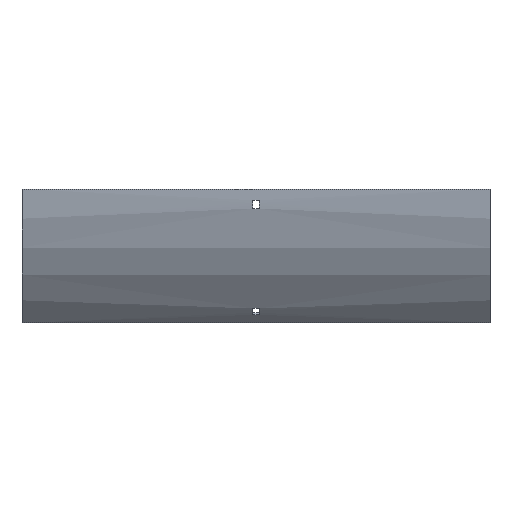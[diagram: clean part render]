
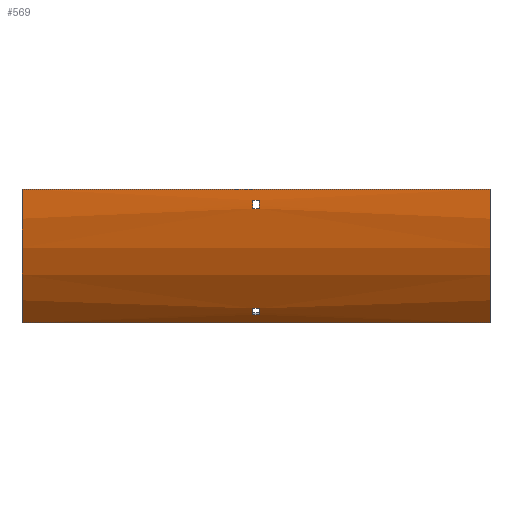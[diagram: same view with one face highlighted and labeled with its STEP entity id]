
A CAD part, front view. The second image highlights one B-rep face of the part: STEP entity #569.
In plain terms, the highlighted cylindrical face has radius 204 mm (diameter 408 mm), a partial arc.
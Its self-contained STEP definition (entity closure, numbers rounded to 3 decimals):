
#29 = AXIS2_PLACEMENT_3D ( 'NONE', #1454, #316, #278 ) ;
#51 = EDGE_CURVE ( 'NONE', #1194, #70, #1008, .T. ) ;
#70 = VERTEX_POINT ( 'NONE', #1602 ) ;
#91 = AXIS2_PLACEMENT_3D ( 'NONE', #1419, #129, #616 ) ;
#106 = ORIENTED_EDGE ( 'NONE', *, *, #967, .T. ) ;
#109 = ORIENTED_EDGE ( 'NONE', *, *, #1183, .T. ) ;
#112 = CIRCLE ( 'NONE', #91, 204. ) ;
#125 = LINE ( 'NONE', #792, #680 ) ;
#129 = DIRECTION ( 'NONE',  ( -1., 0., 0. ) ) ;
#141 = DIRECTION ( 'NONE',  ( 0., 0., 1. ) ) ;
#151 = CARTESIAN_POINT ( 'NONE',  ( 252., -44.25, -144.25 ) ) ;
#163 = VERTEX_POINT ( 'NONE', #236 ) ;
#196 = VERTEX_POINT ( 'NONE', #1556 ) ;
#208 = CARTESIAN_POINT ( 'NONE',  ( 3.25, 100., 0. ) ) ;
#209 = VERTEX_POINT ( 'NONE', #1414 ) ;
#221 = DIRECTION ( 'NONE',  ( -1., 0., 0. ) ) ;
#236 = CARTESIAN_POINT ( 'NONE',  ( 252., -104., 0. ) ) ;
#248 = ORIENTED_EDGE ( 'NONE', *, *, #51, .F. ) ;
#258 = CIRCLE ( 'NONE', #29, 204. ) ;
#272 = FACE_BOUND ( 'NONE', #747, .T. ) ;
#278 = DIRECTION ( 'NONE',  ( 0., 0., -1. ) ) ;
#281 = CARTESIAN_POINT ( 'NONE',  ( 252., -44.25, -144.25 ) ) ;
#284 = ORIENTED_EDGE ( 'NONE', *, *, #1278, .F. ) ;
#288 = VECTOR ( 'NONE', #563, 1000. ) ;
#316 = DIRECTION ( 'NONE',  ( 1., 0., 0. ) ) ;
#328 = CARTESIAN_POINT ( 'NONE',  ( 3.25, 100., 0. ) ) ;
#350 = EDGE_CURVE ( 'NONE', #1267, #996, #999, .T. ) ;
#386 = EDGE_CURVE ( 'NONE', #1373, #632, #1347, .T. ) ;
#412 = LINE ( 'NONE', #668, #1575 ) ;
#422 = FACE_BOUND ( 'NONE', #1386, .T. ) ;
#438 = CARTESIAN_POINT ( 'NONE',  ( 252., -103.647, -12. ) ) ;
#485 = EDGE_CURVE ( 'NONE', #1232, #769, #1192, .T. ) ;
#520 = AXIS2_PLACEMENT_3D ( 'NONE', #208, #864, #596 ) ;
#563 = DIRECTION ( 'NONE',  ( 1., 0., 0. ) ) ;
#569 = ADVANCED_FACE ( 'NONE', ( #919, #272, #422 ), #791, .T. ) ;
#570 = ORIENTED_EDGE ( 'NONE', *, *, #1529, .T. ) ;
#582 = CARTESIAN_POINT ( 'NONE',  ( -3.25, -58.333, -128.634 ) ) ;
#585 = CARTESIAN_POINT ( 'NONE',  ( -3.25, -102.916, -21. ) ) ;
#596 = DIRECTION ( 'NONE',  ( 0., 0., -1. ) ) ;
#616 = DIRECTION ( 'NONE',  ( 0., 0., 1. ) ) ;
#632 = VERTEX_POINT ( 'NONE', #585 ) ;
#668 = CARTESIAN_POINT ( 'NONE',  ( 252., -104., 0. ) ) ;
#680 = VECTOR ( 'NONE', #1690, 1000. ) ;
#685 = DIRECTION ( 'NONE',  ( -1., 0., 0. ) ) ;
#696 = EDGE_LOOP ( 'NONE', ( #106, #1654, #805, #109 ) ) ;
#710 = DIRECTION ( 'NONE',  ( 0., 0., -1. ) ) ;
#732 = ORIENTED_EDGE ( 'NONE', *, *, #1384, .T. ) ;
#747 = EDGE_LOOP ( 'NONE', ( #1603, #732, #570, #1459 ) ) ;
#769 = VERTEX_POINT ( 'NONE', #1526 ) ;
#791 = CYLINDRICAL_SURFACE ( 'NONE', #1398, 204. ) ;
#792 = CARTESIAN_POINT ( 'NONE',  ( 252., -52.485, -135.515 ) ) ;
#796 = AXIS2_PLACEMENT_3D ( 'NONE', #328, #1352, #1312 ) ;
#805 = ORIENTED_EDGE ( 'NONE', *, *, #1579, .F. ) ;
#828 = CARTESIAN_POINT ( 'NONE',  ( -252., 100., 0. ) ) ;
#845 = VERTEX_POINT ( 'NONE', #1475 ) ;
#864 = DIRECTION ( 'NONE',  ( 1., 0., 0. ) ) ;
#883 = VECTOR ( 'NONE', #685, 1000. ) ;
#919 = FACE_OUTER_BOUND ( 'NONE', #696, .T. ) ;
#920 = CARTESIAN_POINT ( 'NONE',  ( 3.25, -52.485, -135.515 ) ) ;
#932 = DIRECTION ( 'NONE',  ( -1., 0., 0. ) ) ;
#941 = VECTOR ( 'NONE', #1491, 1000. ) ;
#967 = EDGE_CURVE ( 'NONE', #196, #769, #1255, .T. ) ;
#974 = CARTESIAN_POINT ( 'NONE',  ( 252., -102.916, -21. ) ) ;
#996 = VERTEX_POINT ( 'NONE', #1292 ) ;
#999 = CIRCLE ( 'NONE', #1220, 204. ) ;
#1007 = CARTESIAN_POINT ( 'NONE',  ( 3.25, -102.916, -21. ) ) ;
#1008 = CIRCLE ( 'NONE', #796, 204. ) ;
#1031 = EDGE_CURVE ( 'NONE', #996, #1194, #125, .T. ) ;
#1038 = VECTOR ( 'NONE', #221, 1000. ) ;
#1095 = CARTESIAN_POINT ( 'NONE',  ( 252., -58.333, -128.634 ) ) ;
#1099 = DIRECTION ( 'NONE',  ( 1., 0., 0. ) ) ;
#1128 = ORIENTED_EDGE ( 'NONE', *, *, #350, .F. ) ;
#1173 = LINE ( 'NONE', #438, #288 ) ;
#1183 = EDGE_CURVE ( 'NONE', #163, #196, #412, .T. ) ;
#1192 = LINE ( 'NONE', #281, #883 ) ;
#1194 = VERTEX_POINT ( 'NONE', #920 ) ;
#1220 = AXIS2_PLACEMENT_3D ( 'NONE', #1600, #1230, #710 ) ;
#1230 = DIRECTION ( 'NONE',  ( 1., 0., 0. ) ) ;
#1232 = VERTEX_POINT ( 'NONE', #151 ) ;
#1255 = CIRCLE ( 'NONE', #1495, 204. ) ;
#1256 = CIRCLE ( 'NONE', #520, 204. ) ;
#1267 = VERTEX_POINT ( 'NONE', #582 ) ;
#1278 = EDGE_CURVE ( 'NONE', #70, #1267, #1500, .T. ) ;
#1292 = CARTESIAN_POINT ( 'NONE',  ( -3.25, -52.485, -135.515 ) ) ;
#1305 = CARTESIAN_POINT ( 'NONE',  ( 252., 100., 0. ) ) ;
#1312 = DIRECTION ( 'NONE',  ( 0., 0., 1. ) ) ;
#1347 = LINE ( 'NONE', #974, #941 ) ;
#1349 = EDGE_CURVE ( 'NONE', #845, #1373, #1256, .T. ) ;
#1352 = DIRECTION ( 'NONE',  ( -1., 0., 0. ) ) ;
#1373 = VERTEX_POINT ( 'NONE', #1007 ) ;
#1384 = EDGE_CURVE ( 'NONE', #632, #209, #112, .T. ) ;
#1386 = EDGE_LOOP ( 'NONE', ( #1128, #284, #248, #1558 ) ) ;
#1398 = AXIS2_PLACEMENT_3D ( 'NONE', #1305, #1447, #141 ) ;
#1414 = CARTESIAN_POINT ( 'NONE',  ( -3.25, -103.647, -12. ) ) ;
#1419 = CARTESIAN_POINT ( 'NONE',  ( -3.25, 100., 0. ) ) ;
#1447 = DIRECTION ( 'NONE',  ( -1., 0., 0. ) ) ;
#1454 = CARTESIAN_POINT ( 'NONE',  ( 252., 100., 0. ) ) ;
#1459 = ORIENTED_EDGE ( 'NONE', *, *, #1349, .T. ) ;
#1466 = DIRECTION ( 'NONE',  ( 0., 0., -1. ) ) ;
#1475 = CARTESIAN_POINT ( 'NONE',  ( 3.25, -103.647, -12. ) ) ;
#1491 = DIRECTION ( 'NONE',  ( -1., 0., 0. ) ) ;
#1495 = AXIS2_PLACEMENT_3D ( 'NONE', #828, #1099, #1466 ) ;
#1500 = LINE ( 'NONE', #1095, #1038 ) ;
#1526 = CARTESIAN_POINT ( 'NONE',  ( -252., -44.25, -144.25 ) ) ;
#1529 = EDGE_CURVE ( 'NONE', #209, #845, #1173, .T. ) ;
#1556 = CARTESIAN_POINT ( 'NONE',  ( -252., -104., 0. ) ) ;
#1558 = ORIENTED_EDGE ( 'NONE', *, *, #1031, .F. ) ;
#1575 = VECTOR ( 'NONE', #932, 1000. ) ;
#1579 = EDGE_CURVE ( 'NONE', #163, #1232, #258, .T. ) ;
#1600 = CARTESIAN_POINT ( 'NONE',  ( -3.25, 100., 0. ) ) ;
#1602 = CARTESIAN_POINT ( 'NONE',  ( 3.25, -58.333, -128.634 ) ) ;
#1603 = ORIENTED_EDGE ( 'NONE', *, *, #386, .T. ) ;
#1654 = ORIENTED_EDGE ( 'NONE', *, *, #485, .F. ) ;
#1690 = DIRECTION ( 'NONE',  ( 1., 0., 0. ) ) ;
